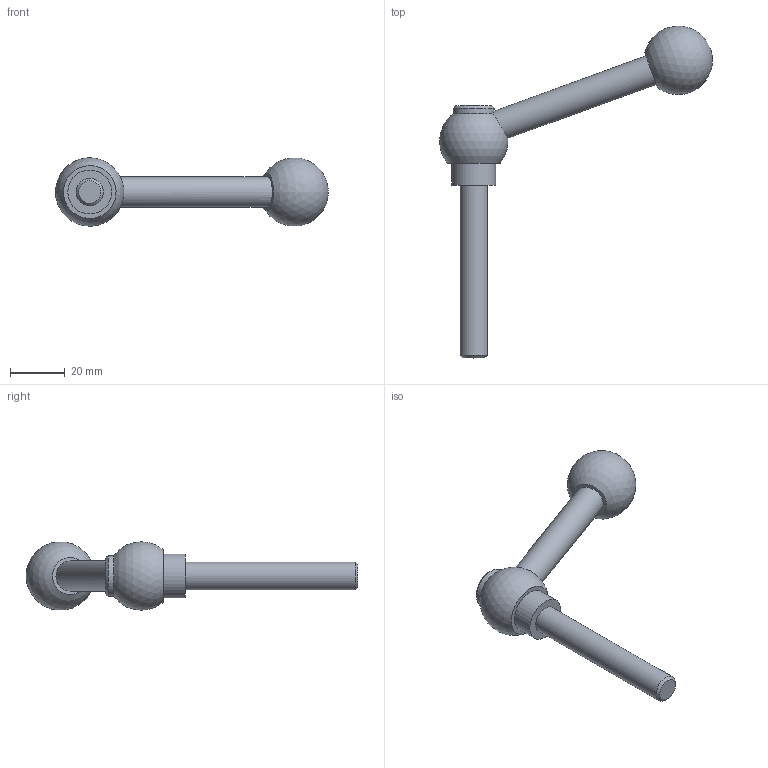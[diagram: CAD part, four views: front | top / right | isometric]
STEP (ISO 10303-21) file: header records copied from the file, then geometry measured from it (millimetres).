
FILE_DESCRIPTION( ( 'STEP AP203' ), '1' );
FILE_NAME( 'C:/Temp/Ganter_Step_05_03_2020/data/2_1/gn_6337_3/gn_6337_3_ms/gn_6337_3_ms_n/Adjustable clamping lever with bolt GN 6337.3-25-M10-63-N.stp', '2020-03-05T11:41:19', ( 'License CC BY-ND 4.0' ), ( 'CADENAS' ), ' ', 'PARTsolutions', ' ' );
FILE_SCHEMA( ( 'CONFIG_CONTROL_DESIGN' ) );
Length unit declared in the file: millimetre
Products named in the file (1): _Adjustable clamping lever with bolt GN 6337.3-25-M10-63-N
Bounding box: 99.39 x 120.98 x 25 mm (x, y, z)
Volume: 27842.3 mm3; surface area: 8132.3 mm2
Topology: 1 solids, 1 shells, 13 faces, 27 edges, 18 vertices
Faces by surface type: plane 5, cylinder 4, cone 2, sphere 2
Full cylindrical faces by diameter (mm): 10 x1, 11 x1, 15 x1, 16 x1
Entity records: 374 total; most frequent: CARTESIAN_POINT 112, DIRECTION 50, ORIENTED_EDGE 26, AXIS2_PLACEMENT_3D 25, EDGE_LOOP 23, FACE_OUTER_BOUND 18, ADVANCED_FACE 13, VERTEX_POINT 13
